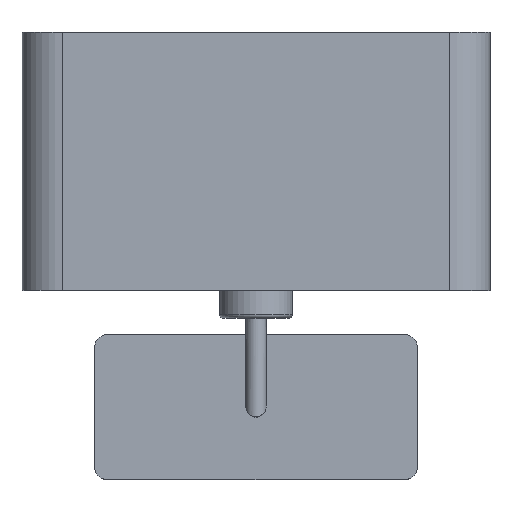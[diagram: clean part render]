
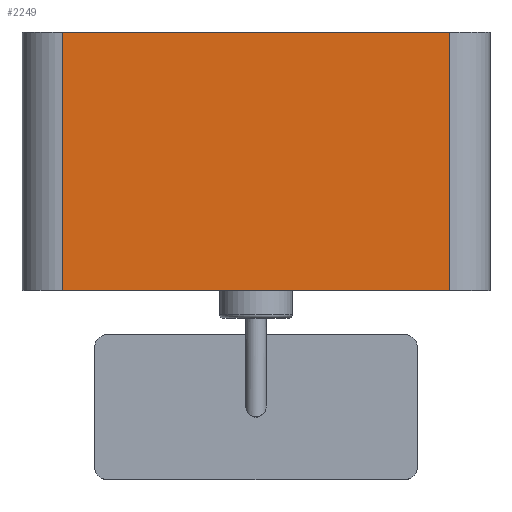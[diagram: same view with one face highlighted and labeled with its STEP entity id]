
A CAD part, top view. The second image highlights one B-rep face of the part: STEP entity #2249.
In plain terms, the highlighted planar face has unit normal (0, 0, 1).
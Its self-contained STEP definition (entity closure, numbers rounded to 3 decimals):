
#56 = CARTESIAN_POINT ( 'NONE',  ( 120., -140., 90. ) ) ;
#132 = CARTESIAN_POINT ( 'NONE',  ( 120., -140., 90. ) ) ;
#227 = ORIENTED_EDGE ( 'NONE', *, *, #1540, .F. ) ;
#274 = DIRECTION ( 'NONE',  ( 1., 0., 0. ) ) ;
#330 = LINE ( 'NONE', #1336, #1147 ) ;
#590 = EDGE_CURVE ( 'NONE', #1658, #1858, #1455, .T. ) ;
#623 = DIRECTION ( 'NONE',  ( 1., 0., 0. ) ) ;
#636 = PLANE ( 'NONE',  #2546 ) ;
#1048 = CARTESIAN_POINT ( 'NONE',  ( -120., -140., 90. ) ) ;
#1081 = VERTEX_POINT ( 'NONE', #1765 ) ;
#1147 = VECTOR ( 'NONE', #1530, 1000. ) ;
#1323 = LINE ( 'NONE', #132, #1900 ) ;
#1336 = CARTESIAN_POINT ( 'NONE',  ( -120., 20., 90. ) ) ;
#1421 = EDGE_LOOP ( 'NONE', ( #227, #2485, #2438, #1994 ) ) ;
#1455 = LINE ( 'NONE', #2422, #1566 ) ;
#1530 = DIRECTION ( 'NONE',  ( 1., 0., 0. ) ) ;
#1540 = EDGE_CURVE ( 'NONE', #1081, #2303, #330, .T. ) ;
#1566 = VECTOR ( 'NONE', #623, 1000. ) ;
#1615 = EDGE_CURVE ( 'NONE', #1658, #1081, #1918, .T. ) ;
#1642 = FACE_OUTER_BOUND ( 'NONE', #1421, .T. ) ;
#1658 = VERTEX_POINT ( 'NONE', #2572 ) ;
#1695 = EDGE_CURVE ( 'NONE', #1858, #2303, #1323, .T. ) ;
#1721 = DIRECTION ( 'NONE',  ( 0., 1., 0. ) ) ;
#1765 = CARTESIAN_POINT ( 'NONE',  ( -120., 20., 90. ) ) ;
#1770 = VECTOR ( 'NONE', #1943, 1000. ) ;
#1858 = VERTEX_POINT ( 'NONE', #56 ) ;
#1871 = CARTESIAN_POINT ( 'NONE',  ( 120., 20., 90. ) ) ;
#1900 = VECTOR ( 'NONE', #1721, 1000. ) ;
#1918 = LINE ( 'NONE', #2349, #1770 ) ;
#1943 = DIRECTION ( 'NONE',  ( 0., 1., 0. ) ) ;
#1994 = ORIENTED_EDGE ( 'NONE', *, *, #1695, .T. ) ;
#2249 = ADVANCED_FACE ( 'NONE', ( #1642 ), #636, .T. ) ;
#2303 = VERTEX_POINT ( 'NONE', #1871 ) ;
#2349 = CARTESIAN_POINT ( 'NONE',  ( -120., -140., 90. ) ) ;
#2422 = CARTESIAN_POINT ( 'NONE',  ( -120., -140., 90. ) ) ;
#2438 = ORIENTED_EDGE ( 'NONE', *, *, #590, .T. ) ;
#2453 = DIRECTION ( 'NONE',  ( 0., 0., 1. ) ) ;
#2485 = ORIENTED_EDGE ( 'NONE', *, *, #1615, .F. ) ;
#2546 = AXIS2_PLACEMENT_3D ( 'NONE', #1048, #2453, #274 ) ;
#2572 = CARTESIAN_POINT ( 'NONE',  ( -120., -140., 90. ) ) ;
